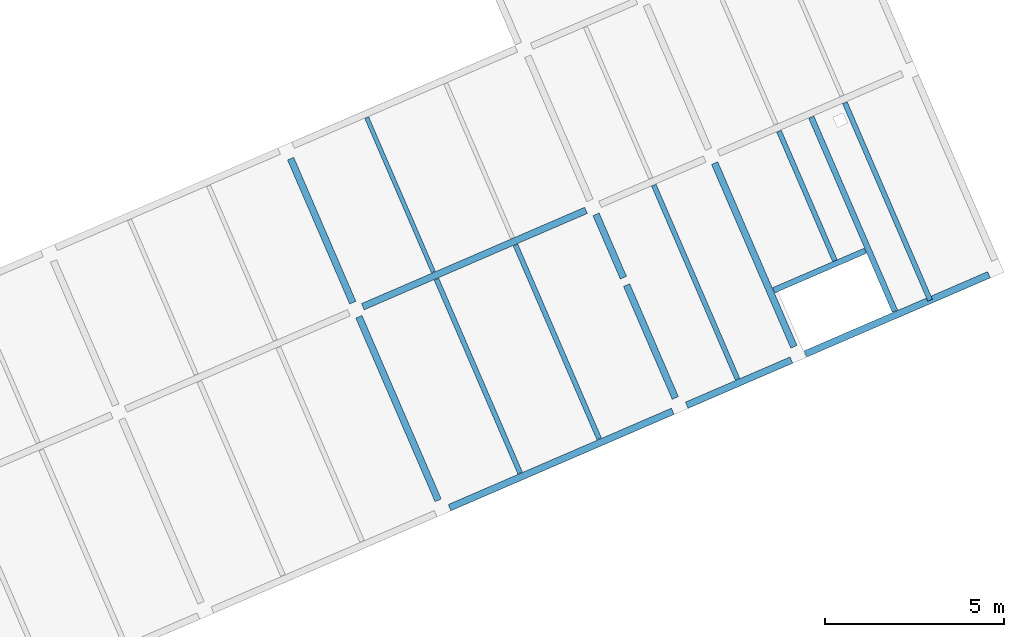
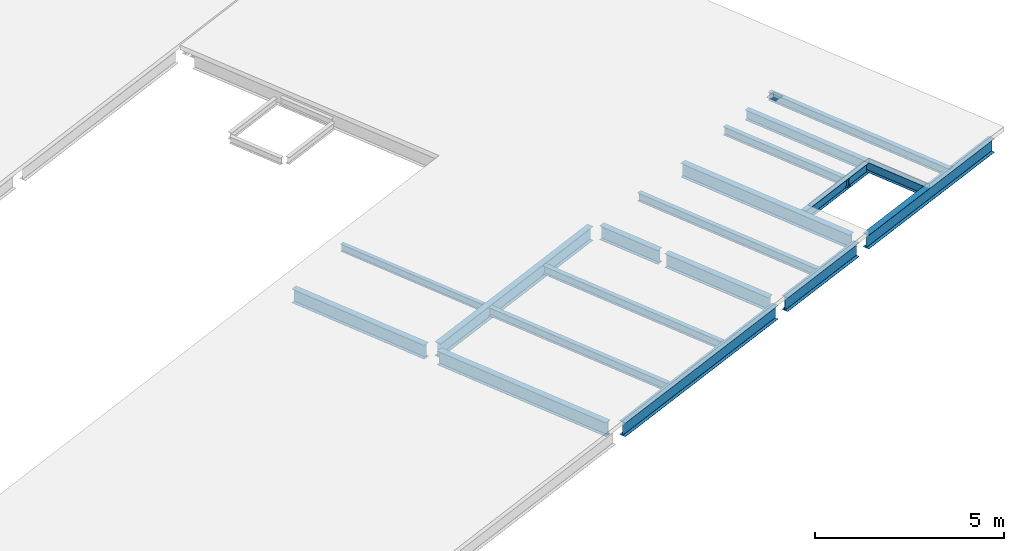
# One storey, part 5 of 15: 17 beams.
"""IFC4 building model written with IfcOpenShell, lengths in metres."""

from ifc_helpers import new_model, entity, si_unit, converted_unit, derived_unit, direction, frame, origin, place, context, subcontext, project, spatial, line, arc, indexed_curve, outline, extrude, source, transform, mapped, material, type_object, type_shapes, element, save


model = new_model("IFC4")

# Units and contexts
model_context = context("Model", 3, precision=1e-05, world=origin(), true_north=direction((6.12323399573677e-17, 1.0)))
body_context = subcontext(model_context, "Body", "Model", "MODEL_VIEW")
ifc_project = project(units=[si_unit("LENGTHUNIT", "METRE"), si_unit("AREAUNIT", "SQUARE_METRE"), si_unit("VOLUMEUNIT", "CUBIC_METRE"), converted_unit("PLANEANGLEUNIT", "DEGREE", entity("IfcPlaneAngleMeasure", 0.0174532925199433), si_unit("PLANEANGLEUNIT", "RADIAN"), dimensions=[0, 0, 0, 0, 0, 0, 0]), si_unit("MASSUNIT", "GRAM", prefix="KILO"), derived_unit("MOMENTOFINERTIAUNIT", [(si_unit("LENGTHUNIT", "METRE"), 4)]), derived_unit("LINEARFORCEUNIT", [(si_unit("MASSUNIT", "GRAM", prefix="KILO"), 1), (si_unit("TIMEUNIT", "SECOND"), -2)]), derived_unit("WARPINGCONSTANTUNIT", [(si_unit("LENGTHUNIT", "METRE"), 6)]), derived_unit("THERMALTRANSMITTANCEUNIT", [(si_unit("MASSUNIT", "GRAM", prefix="KILO"), 1), (si_unit("THERMODYNAMICTEMPERATUREUNIT", "KELVIN"), -1), (si_unit("TIMEUNIT", "SECOND"), -3)]), derived_unit("USERDEFINED", [(si_unit("MASSUNIT", "GRAM", prefix="KILO"), 1), (si_unit("TIMEUNIT", "SECOND"), -2), (si_unit("THERMODYNAMICTEMPERATUREUNIT", "KELVIN"), -1)]), derived_unit("THERMALRESISTANCEUNIT", [(si_unit("MASSUNIT", "GRAM", prefix="KILO"), -1), (si_unit("TIMEUNIT", "SECOND"), 3), (si_unit("THERMODYNAMICTEMPERATUREUNIT", "KELVIN"), 1)])], contexts=[model_context])

# Site, building, storey
site_placement = place(None, origin())
site = spatial("IfcSite", under=ifc_project, at=site_placement, Name="Default", CompositionType="ELEMENT")
building_placement = place(site_placement, frame((12.6613425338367, -82.5732315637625, 317.15), z_axis=(0.0, 0.0, 1.0), x_axis=(-0.396377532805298, 0.918087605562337, 0.0)))
building = spatial("IfcBuilding", under=site, at=building_placement, Name="CESFAM Coyhaique", CompositionType="ELEMENT")
storey_placement = place(building_placement, frame((0.0, 0.0, 8.45000000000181)))
storey = spatial("IfcBuildingStorey", under=building, at=storey_placement, Name="Nivel 3", CompositionType="ELEMENT", Elevation=8.45000000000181)

# Beams
ifc_material = material(Name="Steel, 45-345", Category="Metal")
beam_type_1 = type_object("IfcBeamType", Name="M_W Shapes:W450X190mm", PredefinedType="BEAM", material=ifc_material)
shared_shape_1 = source(origin(), body_context, "Body", "SweptSolid", [
    extrude(outline(indexed_curve([(-0.224999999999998, -0.0949999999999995), (-0.215349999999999, -0.0949999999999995), (-0.215349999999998, -0.0105699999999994), (-0.213109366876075, -0.00516063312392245), (-0.207699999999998, -0.00291999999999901), (0.207700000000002, -0.00291999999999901), (0.213109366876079, -0.00516063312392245), (0.215350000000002, -0.0105699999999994), (0.215350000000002, -0.0949999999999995), (0.225000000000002, -0.0949999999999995), (0.225000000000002, 0.0950000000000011), (0.215350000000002, 0.0950000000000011), (0.215350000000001, 0.0105700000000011), (0.213109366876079, 0.00516063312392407), (0.207700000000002, 0.00292000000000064), (-0.207699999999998, 0.00292000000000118), (-0.213109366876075, 0.00516063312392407), (-0.215349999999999, 0.0105700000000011), (-0.215349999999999, 0.0950000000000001), (-0.224999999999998, 0.0950000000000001)], segments=[line(1, 2, 3), arc(3, 4, 5), line(5, 6), arc(6, 7, 8), line(8, 9, 10, 11, 12, 13), arc(13, 14, 15), line(15, 16), arc(16, 17, 18), line(18, 19, 20, 1)], self_intersect=False)), frame((4.38155341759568, -4.39714959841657, 8.07500000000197), z_axis=(1.0, 0.0, 0.0), x_axis=(0.0, 0.0, -1.0)), (0.0, 0.0, 1.0), 5.5746),
])
type_shapes(beam_type_1, [shared_shape_1])
beam_1_placement = place(storey_placement, frame((0.0, 0.0, -8.45000000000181)))
element("IfcBeam", 1, at=beam_1_placement, inside=storey, type_object=beam_type_1, Name="M_W Shapes:W450X190mm", ObjectType="M_W Shapes:W450X190mm", PredefinedType="BEAM", context=body_context, shape_type="MappedRepresentation", body=[
    mapped(shared_shape_1, transform((0.0, 0.0, 0.0), scale=1.0)),
])
beam_type_2 = type_object("IfcBeamType", Name="M_W Shapes:W450X190mm", PredefinedType="BEAM", material=ifc_material)
shared_shape_2 = source(origin(), body_context, "Body", "SweptSolid", [
    extrude(outline(indexed_curve([(-0.224999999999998, -0.0950000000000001), (-0.215349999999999, -0.0949999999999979), (-0.215349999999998, -0.0105699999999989), (-0.213109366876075, -0.00516063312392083), (-0.207699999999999, -0.00291999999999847), (0.207700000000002, -0.00291999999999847), (0.213109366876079, -0.00516063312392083), (0.215350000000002, -0.0105699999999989), (0.215350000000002, -0.0950000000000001), (0.225000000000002, -0.0950000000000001), (0.225000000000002, 0.0950000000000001), (0.215350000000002, 0.0950000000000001), (0.215350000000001, 0.0105700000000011), (0.213109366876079, 0.00516063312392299), (0.207700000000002, 0.00292000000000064), (-0.207699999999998, 0.00292000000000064), (-0.213109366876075, 0.00516063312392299), (-0.215349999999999, 0.0105700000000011), (-0.215349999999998, 0.0950000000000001), (-0.224999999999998, 0.0950000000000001)], segments=[line(1, 2, 3), arc(3, 4, 5), line(5, 6), arc(6, 7, 8), line(8, 9, 10, 11, 12, 13), arc(13, 14, 15), line(15, 16), arc(16, 17, 18), line(18, 19, 20, 1)], self_intersect=False)), frame((4.38155341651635, -11.5971495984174, 8.07500000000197), z_axis=(1.0, 0.0, 0.0), x_axis=(0.0, 0.0, -1.0)), (0.0, 0.0, 1.0), 3.4246),
])
type_shapes(beam_type_2, [shared_shape_2])
beam_2_placement = place(storey_placement, frame((0.0, 0.0, -8.45000000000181)))
element("IfcBeam", 2, at=beam_2_placement, inside=storey, type_object=beam_type_2, Name="M_W Shapes:W450X190mm", ObjectType="M_W Shapes:W450X190mm", PredefinedType="BEAM", context=body_context, shape_type="MappedRepresentation", body=[
    mapped(shared_shape_2, transform((0.0, 0.0, 0.0), scale=1.0)),
])
beam_type_3 = type_object("IfcBeamType", Name="M_W Shapes:W450X190mm", PredefinedType="BEAM", material=ifc_material)
shared_shape_3 = source(origin(), body_context, "Body", "SweptSolid", [
    extrude(outline(indexed_curve([(-0.224999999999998, -0.0950000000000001), (-0.215349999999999, -0.0950000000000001), (-0.215349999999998, -0.0105699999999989), (-0.213109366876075, -0.00516063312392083), (-0.207699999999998, -0.00291999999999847), (0.207700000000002, -0.00291999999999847), (0.213109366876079, -0.00516063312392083), (0.215350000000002, -0.0105699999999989), (0.215350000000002, -0.0950000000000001), (0.225000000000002, -0.0950000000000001), (0.225000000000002, 0.0950000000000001), (0.215350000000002, 0.0950000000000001), (0.215350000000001, 0.0105700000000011), (0.213109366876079, 0.00516063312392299), (0.207700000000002, 0.00292000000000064), (-0.207699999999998, 0.00292000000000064), (-0.213109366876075, 0.00516063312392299), (-0.215349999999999, 0.0105700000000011), (-0.215349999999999, 0.0950000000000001), (-0.224999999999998, 0.0950000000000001)], segments=[line(1, 2, 3), arc(3, 4, 5), line(5, 6), arc(6, 7, 8), line(8, 9, 10, 11, 12, 13), arc(13, 14, 15), line(15, 16), arc(16, 17, 18), line(18, 19, 20, 1)], self_intersect=False)), frame((4.38155341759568, -15.1971495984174, 8.07500000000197), z_axis=(1.0, 0.0, 0.0), x_axis=(0.0, 0.0, -1.0)), (0.0, 0.0, 1.0), 5.5746),
])
type_shapes(beam_type_3, [shared_shape_3])
beam_3_placement = place(storey_placement, frame((0.0, 0.0, -8.45000000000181)))
element("IfcBeam", 3, at=beam_3_placement, inside=storey, type_object=beam_type_3, Name="M_W Shapes:W450X190mm", ObjectType="M_W Shapes:W450X190mm", PredefinedType="BEAM", context=body_context, shape_type="MappedRepresentation", body=[
    mapped(shared_shape_3, transform((0.0, 0.0, 0.0), scale=1.0)),
])
beam_type_4 = type_object("IfcBeamType", Name="M_W Shapes:W450X190mm", PredefinedType="BEAM", material=ifc_material)
shared_shape_4 = source(origin(), body_context, "Body", "SweptSolid", [
    extrude(outline(indexed_curve([(-0.224999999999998, -0.0950000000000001), (-0.215349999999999, -0.0950000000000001), (-0.215349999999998, -0.01057), (-0.213109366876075, -0.00516063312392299), (-0.207699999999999, -0.00291999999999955), (0.207700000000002, -0.00291999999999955), (0.213109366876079, -0.00516063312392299), (0.215350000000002, -0.01057), (0.215350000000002, -0.0950000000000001), (0.225000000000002, -0.0950000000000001), (0.225000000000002, 0.0950000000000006), (0.215350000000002, 0.0950000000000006), (0.215350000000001, 0.0105700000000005), (0.213109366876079, 0.00516063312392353), (0.207700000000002, 0.00292000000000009), (-0.207699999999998, 0.00292000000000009), (-0.213109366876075, 0.00516063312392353), (-0.215349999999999, 0.0105700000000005), (-0.215349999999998, 0.0949999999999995), (-0.224999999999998, 0.0950000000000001)], segments=[line(1, 2, 3), arc(3, 4, 5), line(5, 6), arc(6, 7, 8), line(8, 9, 10, 11, 12, 13), arc(13, 14, 15), line(15, 16), arc(16, 17, 18), line(18, 19, 20, 1)], self_intersect=False)), frame((10.3815534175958, -4.39714959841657, 8.07500000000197), z_axis=(1.0, 0.0, 0.0), x_axis=(0.0, 0.0, -1.0)), (0.0, 0.0, 1.0), 4.3746),
])
type_shapes(beam_type_4, [shared_shape_4])
beam_4_placement = place(storey_placement, frame((0.0, 0.0, -8.45000000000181)))
element("IfcBeam", 4, at=beam_4_placement, inside=storey, type_object=beam_type_4, Name="M_W Shapes:W450X190mm", ObjectType="M_W Shapes:W450X190mm", PredefinedType="BEAM", context=body_context, shape_type="MappedRepresentation", body=[
    mapped(shared_shape_4, transform((0.0, 0.0, 0.0), scale=1.0)),
])
beam_type_5 = type_object("IfcBeamType", Name="M_W Shapes:W450X190mm", PredefinedType="BEAM", material=ifc_material)
shared_shape_5 = source(origin(), body_context, "Body", "SweptSolid", [
    extrude(outline(indexed_curve([(-0.0950000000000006, -0.225000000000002), (0.0950000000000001, -0.225000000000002), (0.0950000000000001, -0.215350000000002), (0.01057, -0.215350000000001), (0.00516063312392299, -0.213109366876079), (0.00291999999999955, -0.207700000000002), (0.00291999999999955, 0.207699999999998), (0.00516063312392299, 0.213109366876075), (0.01057, 0.215349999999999), (0.094999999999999, 0.215349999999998), (0.0949999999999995, 0.224999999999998), (-0.0950000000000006, 0.224999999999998), (-0.0950000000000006, 0.215349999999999), (-0.0105700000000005, 0.215349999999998), (-0.00516063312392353, 0.213109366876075), (-0.00292000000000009, 0.207699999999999), (-0.00292000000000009, -0.207700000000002), (-0.00516063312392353, -0.213109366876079), (-0.0105700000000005, -0.215350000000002), (-0.0950000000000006, -0.215350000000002)], segments=[line(1, 2, 3, 4), arc(4, 5, 6), line(6, 7), arc(7, 8, 9), line(9, 10, 11, 12, 13, 14), arc(14, 15, 16), line(16, 17), arc(17, 18, 19), line(19, 20, 1)], self_intersect=False)), frame((4.06885341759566, -11.384449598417, 8.07500000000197), z_axis=(0.0, 1.0, 0.0), x_axis=(-1.0, 0.0, 0.0)), (0.0, 0.0, 1.0), 6.7746),
])
type_shapes(beam_type_5, [shared_shape_5])
beam_5_placement = place(storey_placement, frame((0.0, 0.0, -8.45000000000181)))
element("IfcBeam", 5, at=beam_5_placement, inside=storey, type_object=beam_type_5, Name="M_W Shapes:W450X190mm", ObjectType="M_W Shapes:W450X190mm", PredefinedType="BEAM", context=body_context, shape_type="MappedRepresentation", body=[
    mapped(shared_shape_5, transform((0.0, 0.0, 0.0), scale=1.0)),
])
beam_type_6 = type_object("IfcBeamType", Name="M_W Shapes:W450X190mm", PredefinedType="BEAM", material=ifc_material)
shared_shape_6 = source(origin(), body_context, "Body", "SweptSolid", [
    extrude(outline(indexed_curve([(-0.0950000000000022, -0.225000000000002), (0.0949999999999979, -0.225000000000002), (0.0949999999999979, -0.215350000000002), (0.0105699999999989, -0.215350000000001), (0.00516063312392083, -0.213109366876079), (0.00291999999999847, -0.207700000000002), (0.00291999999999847, 0.207699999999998), (0.00516063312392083, 0.213109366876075), (0.0105699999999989, 0.215349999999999), (0.0949999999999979, 0.215349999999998), (0.0949999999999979, 0.224999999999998), (-0.0950000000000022, 0.224999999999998), (-0.0950000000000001, 0.215349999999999), (-0.0105700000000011, 0.215349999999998), (-0.00516063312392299, 0.213109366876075), (-0.00292000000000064, 0.207699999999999), (-0.00292000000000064, -0.207700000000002), (-0.00516063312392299, -0.213109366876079), (-0.0105700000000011, -0.215350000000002), (-0.0950000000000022, -0.215350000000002)], segments=[line(1, 2, 3, 4), arc(4, 5, 6), line(6, 7), arc(7, 8, 9), line(9, 10, 11, 12, 13, 14), arc(14, 15, 16), line(16, 17), arc(17, 18, 19), line(19, 20, 1)], self_intersect=False)), frame((10.1688534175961, -11.384449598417, 8.07500000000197), z_axis=(0.0, 1.0, 0.0), x_axis=(-1.0, 0.0, 0.0)), (0.0, 0.0, 1.0), 6.7746),
])
type_shapes(beam_type_6, [shared_shape_6])
beam_6_placement = place(storey_placement, frame((0.0, 0.0, -8.45000000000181)))
element("IfcBeam", 6, at=beam_6_placement, inside=storey, type_object=beam_type_6, Name="M_W Shapes:W450X190mm", ObjectType="M_W Shapes:W450X190mm", PredefinedType="BEAM", context=body_context, shape_type="MappedRepresentation", body=[
    mapped(shared_shape_6, transform((0.0, 0.0, 0.0), scale=1.0)),
])
beam_type_7 = type_object("IfcBeamType", Name="M_W Shapes:W450X190mm", PredefinedType="BEAM", material=ifc_material)
shared_shape_7 = source(origin(), body_context, "Body", "SweptSolid", [
    extrude(outline(indexed_curve([(-0.0950000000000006, -0.225000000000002), (0.0950000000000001, -0.225000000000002), (0.0950000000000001, -0.215350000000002), (0.01057, -0.215350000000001), (0.00516063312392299, -0.213109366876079), (0.00291999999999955, -0.207700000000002), (0.00291999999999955, 0.207699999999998), (0.00516063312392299, 0.213109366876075), (0.01057, 0.215349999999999), (0.0949999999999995, 0.215349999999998), (0.0949999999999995, 0.224999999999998), (-0.0950000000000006, 0.224999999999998), (-0.0950000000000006, 0.215349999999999), (-0.0105700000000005, 0.215349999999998), (-0.00516063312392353, 0.213109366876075), (-0.00292000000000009, 0.207699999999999), (-0.00292000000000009, -0.207700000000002), (-0.00516063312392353, -0.213109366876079), (-0.0105700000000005, -0.215350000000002), (-0.0950000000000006, -0.215350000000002)], segments=[line(1, 2, 3, 4), arc(4, 5, 6), line(6, 7), arc(7, 8, 9), line(9, 10, 11, 12, 13, 14), arc(14, 15, 16), line(16, 17), arc(17, 18, 19), line(19, 20, 1)], self_intersect=False)), frame((4.06885341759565, -14.9844495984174, 8.07500000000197), z_axis=(0.0, 1.0, 0.0), x_axis=(-1.0, 0.0, 0.0)), (0.0, 0.0, 1.0), 3.1746),
])
type_shapes(beam_type_7, [shared_shape_7])
beam_7_placement = place(storey_placement, frame((0.0, 0.0, -8.45000000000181)))
element("IfcBeam", 7, at=beam_7_placement, inside=storey, type_object=beam_type_7, Name="M_W Shapes:W450X190mm", ObjectType="M_W Shapes:W450X190mm", PredefinedType="BEAM", context=body_context, shape_type="MappedRepresentation", body=[
    mapped(shared_shape_7, transform((0.0, 0.0, 0.0), scale=1.0)),
])
beam_type_8 = type_object("IfcBeamType", Name="M_W Shapes:W450X190mm", PredefinedType="BEAM", material=ifc_material)
shared_shape_8 = source(origin(), body_context, "Body", "SweptSolid", [
    extrude(outline(indexed_curve([(-0.0950000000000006, -0.225000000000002), (0.0950000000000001, -0.225000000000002), (0.0950000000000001, -0.215350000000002), (0.01057, -0.215350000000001), (0.00516063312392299, -0.213109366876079), (0.00291999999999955, -0.207700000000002), (0.00292000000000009, 0.207699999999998), (0.00516063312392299, 0.213109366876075), (0.01057, 0.215349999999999), (0.0949999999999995, 0.215349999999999), (0.0949999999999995, 0.224999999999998), (-0.0950000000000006, 0.224999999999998), (-0.0950000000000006, 0.215349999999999), (-0.0105700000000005, 0.215349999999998), (-0.00516063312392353, 0.213109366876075), (-0.00292000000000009, 0.207699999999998), (-0.00292000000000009, -0.207700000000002), (-0.00516063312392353, -0.213109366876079), (-0.0105700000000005, -0.215350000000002), (-0.0950000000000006, -0.215350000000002)], segments=[line(1, 2, 3, 4), arc(4, 5, 6), line(6, 7), arc(7, 8, 9), line(9, 10, 11, 12, 13, 14), arc(14, 15, 16), line(16, 17), arc(17, 18, 19), line(19, 20, 1)], self_intersect=False)), frame((4.06885341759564, -20.9844495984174, 8.07500000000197), z_axis=(0.0, 1.0, 0.0), x_axis=(-1.0, 0.0, 0.0)), (0.0, 0.0, 1.0), 5.5746),
])
type_shapes(beam_type_8, [shared_shape_8])
beam_8_placement = place(storey_placement, frame((0.0, 0.0, -8.45000000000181)))
element("IfcBeam", 8, at=beam_8_placement, inside=storey, type_object=beam_type_8, Name="M_W Shapes:W450X190mm", ObjectType="M_W Shapes:W450X190mm", PredefinedType="BEAM", context=body_context, shape_type="MappedRepresentation", body=[
    mapped(shared_shape_8, transform((0.0, 0.0, 0.0), scale=1.0)),
])
beam_type_9 = type_object("IfcBeamType", Name="M_W Shapes:W450X190mm", PredefinedType="BEAM", material=ifc_material)
shared_shape_9 = source(origin(), body_context, "Body", "SweptSolid", [
    extrude(outline(indexed_curve([(-0.224999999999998, -0.0949999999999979), (-0.215349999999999, -0.0949999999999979), (-0.215349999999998, -0.0105699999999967), (-0.213109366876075, -0.00516063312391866), (-0.207699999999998, -0.0029199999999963), (0.207700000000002, -0.0029199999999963), (0.213109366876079, -0.00516063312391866), (0.215350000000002, -0.0105699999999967), (0.215350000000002, -0.0949999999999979), (0.225000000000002, -0.0949999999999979), (0.225000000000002, 0.0950000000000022), (0.215350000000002, 0.0950000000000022), (0.215350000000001, 0.0105700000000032), (0.213109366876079, 0.00516063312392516), (0.207700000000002, 0.0029200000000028), (-0.207699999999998, 0.0029200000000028), (-0.213109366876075, 0.00516063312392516), (-0.215349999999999, 0.0105700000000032), (-0.215349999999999, 0.0950000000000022), (-0.224999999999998, 0.0950000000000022)], segments=[line(1, 2, 3), arc(3, 4, 5), line(5, 6), arc(6, 7, 8), line(8, 9, 10, 11, 12, 13), arc(13, 14, 15), line(15, 16), arc(16, 17, 18), line(18, 19, 20, 1)], self_intersect=False)), frame((8.03155341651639, -11.5971495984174, 8.07500000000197), z_axis=(1.0, 0.0, 0.0), x_axis=(0.0, 0.0, -1.0)), (0.0, 0.0, 1.0), 1.9246),
])
type_shapes(beam_type_9, [shared_shape_9])
beam_9_placement = place(storey_placement, frame((0.0, 0.0, -8.45000000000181)))
element("IfcBeam", 9, at=beam_9_placement, inside=storey, type_object=beam_type_9, Name="M_W Shapes:W450X190mm", ObjectType="M_W Shapes:W450X190mm", PredefinedType="BEAM", context=body_context, shape_type="MappedRepresentation", body=[
    mapped(shared_shape_9, transform((0.0, 0.0, 0.0), scale=1.0)),
])
beam_type_10 = type_object("IfcBeamType", Name="M_W Shapes:W270X140mm", PredefinedType="BEAM", material=ifc_material)
shared_shape_10 = source(origin(), body_context, "Body", "SweptSolid", [
    extrude(outline(indexed_curve([(-0.135, -0.0700000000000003), (-0.125350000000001, -0.0700000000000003), (-0.125350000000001, -0.01057), (-0.123109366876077, -0.00516063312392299), (-0.1177, -0.00292000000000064), (0.117699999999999, -0.00291999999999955), (0.123109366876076, -0.00516063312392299), (0.12535, -0.01057), (0.12535, -0.0700000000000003), (0.135, -0.0700000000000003), (0.135, 0.0700000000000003), (0.12535, 0.0700000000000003), (0.12535, 0.01057), (0.123109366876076, 0.00516063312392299), (0.117699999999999, 0.00291999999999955), (-0.1177, 0.00291999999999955), (-0.123109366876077, 0.00516063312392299), (-0.125350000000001, 0.01057), (-0.125350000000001, 0.0699999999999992), (-0.135, 0.0699999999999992)], segments=[line(1, 2, 3), arc(3, 4, 5), line(5, 6), arc(6, 7, 8), line(8, 9, 10, 11, 12, 13), arc(13, 14, 15), line(15, 16), arc(16, 17, 18), line(18, 19, 20, 1)], self_intersect=False)), frame((4.17655341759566, -6.79714959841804, 8.16500000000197), z_axis=(1.0, 0.0, 0.0), x_axis=(0.0, 0.0, -1.0)), (0.0, 0.0, 1.0), 5.8846),
])
type_shapes(beam_type_10, [shared_shape_10])
beam_10_placement = place(storey_placement, frame((0.0, 0.0, -8.45000000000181)))
element("IfcBeam", 10, at=beam_10_placement, inside=storey, type_object=beam_type_10, Name="M_W Shapes:W270X140mm", ObjectType="M_W Shapes:W270X140mm", PredefinedType="BEAM", context=body_context, shape_type="MappedRepresentation", body=[
    mapped(shared_shape_10, transform((0.0, 0.0, 0.0), scale=1.0)),
])
beam_type_11 = type_object("IfcBeamType", Name="M_W Shapes:W240X120mm", PredefinedType="BEAM", material=ifc_material)
shared_shape_11 = source(origin(), body_context, "Body", "SweptSolid", [
    extrude(outline(indexed_curve([(-0.12, -0.0599999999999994), (-0.110350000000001, -0.0599999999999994), (-0.110350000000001, -0.0105699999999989), (-0.108109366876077, -0.00516063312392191), (-0.1027, -0.00291999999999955), (0.102699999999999, -0.00291999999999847), (0.108109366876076, -0.00516063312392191), (0.110349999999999, -0.0105699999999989), (0.11035, -0.0599999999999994), (0.12, -0.0599999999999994), (0.12, 0.0600000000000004), (0.110349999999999, 0.0600000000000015), (0.11035, 0.0105700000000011), (0.108109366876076, 0.00516063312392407), (0.102699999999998, 0.00292000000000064), (-0.1027, 0.00292000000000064), (-0.108109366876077, 0.00516063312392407), (-0.110350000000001, 0.01057), (-0.11035, 0.0600000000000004), (-0.12, 0.0599999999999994)], segments=[line(1, 2, 3), arc(3, 4, 5), line(5, 6), arc(6, 7, 8), line(8, 9, 10, 11, 12, 13), arc(13, 14, 15), line(15, 16), arc(16, 17, 18), line(18, 19, 20, 1)], self_intersect=False)), frame((10.2765534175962, -6.79714959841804, 8.18000000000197), z_axis=(1.0, 0.0, 0.0), x_axis=(0.0, 0.0, -1.0)), (0.0, 0.0, 1.0), 4.6846),
])
type_shapes(beam_type_11, [shared_shape_11])
beam_11_placement = place(storey_placement, frame((0.0, 0.0, -8.45000000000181)))
element("IfcBeam", 11, at=beam_11_placement, inside=storey, type_object=beam_type_11, Name="M_W Shapes:W240X120mm", ObjectType="M_W Shapes:W240X120mm", PredefinedType="BEAM", context=body_context, shape_type="MappedRepresentation", body=[
    mapped(shared_shape_11, transform((0.0, 0.0, 0.0), scale=1.0)),
])
beam_type_12 = type_object("IfcBeamType", Name="M_W Shapes:W270X140mm", PredefinedType="BEAM", material=ifc_material)
shared_shape_12 = source(origin(), body_context, "Body", "SweptSolid", [
    extrude(outline(indexed_curve([(-0.135, -0.0700000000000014), (-0.125350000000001, -0.0700000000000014), (-0.125350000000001, -0.0105700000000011), (-0.123109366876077, -0.00516063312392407), (-0.1177, -0.00292000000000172), (0.117699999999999, -0.00292000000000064), (0.123109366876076, -0.00516063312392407), (0.12535, -0.0105700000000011), (0.12535, -0.0700000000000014), (0.135, -0.0700000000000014), (0.135, 0.0699999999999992), (0.12535, 0.0699999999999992), (0.12535, 0.0105699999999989), (0.123109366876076, 0.00516063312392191), (0.117699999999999, 0.00291999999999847), (-0.1177, 0.00291999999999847), (-0.123109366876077, 0.00516063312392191), (-0.125350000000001, 0.0105699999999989), (-0.125350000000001, 0.0699999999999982), (-0.135, 0.0699999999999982)], segments=[line(1, 2, 3), arc(3, 4, 5), line(5, 6), arc(6, 7, 8), line(8, 9, 10, 11, 12, 13), arc(13, 14, 15), line(15, 16), arc(16, 17, 18), line(18, 19, 20, 1)], self_intersect=False)), frame((4.17655341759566, -9.19714959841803, 8.16500000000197), z_axis=(1.0, 0.0, 0.0), x_axis=(0.0, 0.0, -1.0)), (0.0, 0.0, 1.0), 5.8846),
])
type_shapes(beam_type_12, [shared_shape_12])
beam_12_placement = place(storey_placement, frame((0.0, 0.0, -8.45000000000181)))
element("IfcBeam", 12, at=beam_12_placement, inside=storey, type_object=beam_type_12, Name="M_W Shapes:W270X140mm", ObjectType="M_W Shapes:W270X140mm", PredefinedType="BEAM", context=body_context, shape_type="MappedRepresentation", body=[
    mapped(shared_shape_12, transform((0.0, 0.0, 0.0), scale=1.0)),
])
beam_type_13 = type_object("IfcBeamType", Name="M_W Shapes:W270X140mm", PredefinedType="BEAM", material=ifc_material)
shared_shape_13 = source(origin(), body_context, "Body", "SweptSolid", [
    extrude(outline(indexed_curve([(-0.135, -0.0699999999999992), (-0.125350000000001, -0.0699999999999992), (-0.12535, -0.0105699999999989), (-0.123109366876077, -0.00516063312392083), (-0.1177, -0.00291999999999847), (0.117699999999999, -0.00291999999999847), (0.123109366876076, -0.00516063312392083), (0.12535, -0.0105699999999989), (0.12535, -0.0699999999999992), (0.135, -0.0699999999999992), (0.135, 0.0700000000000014), (0.12535, 0.0700000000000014), (0.125349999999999, 0.0105700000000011), (0.123109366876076, 0.00516063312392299), (0.117699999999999, 0.00292000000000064), (-0.1177, 0.00292000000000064), (-0.123109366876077, 0.00516063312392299), (-0.125350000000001, 0.0105700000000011), (-0.125350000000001, 0.0700000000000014), (-0.135, 0.0700000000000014)], segments=[line(1, 2, 3), arc(3, 4, 5), line(5, 6), arc(6, 7, 8), line(8, 9, 10, 11, 12, 13), arc(13, 14, 15), line(15, 16), arc(16, 17, 18), line(18, 19, 20, 1)], self_intersect=False)), frame((4.17655341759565, -13.3971495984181, 8.16500000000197), z_axis=(1.0, 0.0, 0.0), x_axis=(0.0, 0.0, -1.0)), (0.0, 0.0, 1.0), 5.8846),
])
type_shapes(beam_type_13, [shared_shape_13])
beam_13_placement = place(storey_placement, frame((0.0, 0.0, -8.45000000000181)))
element("IfcBeam", 13, at=beam_13_placement, inside=storey, type_object=beam_type_13, Name="M_W Shapes:W270X140mm", ObjectType="M_W Shapes:W270X140mm", PredefinedType="BEAM", context=body_context, shape_type="MappedRepresentation", body=[
    mapped(shared_shape_13, transform((0.0, 0.0, 0.0), scale=1.0)),
])
beam_type_14 = type_object("IfcBeamType", Name="M_W Shapes:W270X140mm", PredefinedType="BEAM", material=ifc_material)
shared_shape_14 = source(origin(), body_context, "Body", "SweptSolid", [
    extrude(outline(indexed_curve([(-0.135000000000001, -0.0699999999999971), (-0.125350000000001, -0.0699999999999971), (-0.12535, -0.0105699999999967), (-0.123109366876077, -0.00516063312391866), (-0.117700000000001, -0.0029199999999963), (0.117699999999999, -0.0029199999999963), (0.123109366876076, -0.00516063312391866), (0.12535, -0.0105699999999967), (0.12535, -0.0699999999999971), (0.135, -0.0699999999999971), (0.135, 0.0700000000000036), (0.12535, 0.0700000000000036), (0.125349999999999, 0.0105700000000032), (0.123109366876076, 0.00516063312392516), (0.117699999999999, 0.0029200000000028), (-0.1177, 0.0029200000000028), (-0.123109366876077, 0.00516063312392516), (-0.125350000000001, 0.0105700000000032), (-0.125350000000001, 0.0700000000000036), (-0.135, 0.0700000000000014)], segments=[line(1, 2, 3), arc(3, 4, 5), line(5, 6), arc(6, 7, 8), line(8, 9, 10, 11, 12, 13), arc(13, 14, 15), line(15, 16), arc(16, 17, 18), line(18, 19, 20, 1)], self_intersect=False)), frame((5.96885341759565, -17.197149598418, 8.16500000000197), z_axis=(1.0, 0.0, 0.0), x_axis=(0.0, 0.0, -1.0)), (0.0, 0.0, 1.0), 4.0923),
])
type_shapes(beam_type_14, [shared_shape_14])
beam_14_placement = place(storey_placement, frame((0.0, 0.0, -8.45000000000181)))
element("IfcBeam", 14, at=beam_14_placement, inside=storey, type_object=beam_type_14, Name="M_W Shapes:W270X140mm", ObjectType="M_W Shapes:W270X140mm", PredefinedType="BEAM", context=body_context, shape_type="MappedRepresentation", body=[
    mapped(shared_shape_14, transform((0.0, 0.0, 0.0), scale=1.0)),
])
beam_type_15 = type_object("IfcBeamType", Name="M_W Shapes:W330X160mm", PredefinedType="BEAM", material=ifc_material)
shared_shape_15 = source(origin(), body_context, "Body", "SweptSolid", [
    extrude(outline(indexed_curve([(-0.0800000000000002, -0.165), (0.0800000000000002, -0.164999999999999), (0.0800000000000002, -0.155349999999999), (0.01057, -0.155349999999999), (0.00516063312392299, -0.153109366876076), (0.00291999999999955, -0.147699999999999), (0.00291999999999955, 0.147700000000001), (0.00516063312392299, 0.153109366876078), (0.0105699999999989, 0.15535), (0.0799999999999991, 0.15535), (0.0799999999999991, 0.165), (-0.0800000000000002, 0.165), (-0.0800000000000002, 0.15535), (-0.01057, 0.155350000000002), (-0.00516063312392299, 0.153109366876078), (-0.00292000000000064, 0.147700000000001), (-0.00291999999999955, -0.147699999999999), (-0.00516063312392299, -0.153109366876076), (-0.01057, -0.155349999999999), (-0.0800000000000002, -0.155349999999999)], segments=[line(1, 2, 3, 4), arc(4, 5, 6), line(6, 7), arc(7, 8, 9), line(9, 10, 11, 12, 13, 14), arc(14, 15, 16), line(16, 17), arc(17, 18, 19), line(19, 20, 1)], self_intersect=False)), frame((6.04885341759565, -18.0844495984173, 8.13500000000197), z_axis=(0.0, 1.0, 0.0), x_axis=(-1.0, 0.0, 0.0)), (0.0, 0.0, 1.0), 2.7796),
])
type_shapes(beam_type_15, [shared_shape_15])
beam_15_placement = place(storey_placement, frame((0.0, 0.0, -8.45000000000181)))
element("IfcBeam", 15, at=beam_15_placement, inside=storey, type_object=beam_type_15, Name="M_W Shapes:W330X160mm", ObjectType="M_W Shapes:W330X160mm", PredefinedType="BEAM", context=body_context, shape_type="MappedRepresentation", body=[
    mapped(shared_shape_15, transform((0.0, 0.0, 0.0), scale=1.0)),
])
beam_type_16 = type_object("IfcBeamType", Name="M_W Shapes:W330X160mm", PredefinedType="BEAM", material=ifc_material)
shared_shape_16 = source(origin(), body_context, "Body", "SweptSolid", [
    extrude(outline(indexed_curve([(-0.164999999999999, -0.0799999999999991), (-0.155349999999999, -0.0799999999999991), (-0.155349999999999, -0.0105699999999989), (-0.153109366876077, -0.00516063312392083), (-0.1477, -0.00291999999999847), (0.1477, -0.00291999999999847), (0.153109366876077, -0.00516063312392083), (0.15535, -0.0105699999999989), (0.15535, -0.0799999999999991), (0.165000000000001, -0.0799999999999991), (0.165000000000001, 0.0800000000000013), (0.15535, 0.0800000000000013), (0.155349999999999, 0.0105700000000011), (0.153109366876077, 0.00516063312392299), (0.1477, 0.00292000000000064), (-0.1477, 0.00292000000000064), (-0.153109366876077, 0.00516063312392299), (-0.155349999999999, 0.0105700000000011), (-0.155349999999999, 0.0800000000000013), (-0.164999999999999, 0.0800000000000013)], segments=[line(1, 2, 3), arc(3, 4, 5), line(5, 6), arc(6, 7, 8), line(8, 9, 10, 11, 12, 13), arc(13, 14, 15), line(15, 16), arc(16, 17, 18), line(18, 19, 20, 1)], self_intersect=False)), frame((4.17655341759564, -18.1771495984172, 8.13500000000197), z_axis=(1.0, 0.0, 0.0), x_axis=(0.0, 0.0, -1.0)), (0.0, 0.0, 1.0), 5.8846),
])
type_shapes(beam_type_16, [shared_shape_16])
beam_16_placement = place(storey_placement, frame((0.0, 0.0, -8.45000000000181)))
element("IfcBeam", 16, at=beam_16_placement, inside=storey, type_object=beam_type_16, Name="M_W Shapes:W330X160mm", ObjectType="M_W Shapes:W330X160mm", PredefinedType="BEAM", context=body_context, shape_type="MappedRepresentation", body=[
    mapped(shared_shape_16, transform((0.0, 0.0, 0.0), scale=1.0)),
])
beam_type_17 = type_object("IfcBeamType", Name="M_W Shapes:W270X140mm", PredefinedType="BEAM", material=ifc_material)
shared_shape_17 = source(origin(), body_context, "Body", "SweptSolid", [
    extrude(outline(indexed_curve([(-0.135000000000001, -0.0699999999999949), (-0.125350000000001, -0.0699999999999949), (-0.12535, -0.0105699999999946), (-0.123109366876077, -0.00516063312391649), (-0.117700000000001, -0.00291999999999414), (0.117699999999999, -0.00291999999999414), (0.123109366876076, -0.00516063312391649), (0.12535, -0.0105699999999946), (0.12535, -0.0699999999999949), (0.135, -0.0699999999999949), (0.135, 0.0700000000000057), (0.12535, 0.0700000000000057), (0.125349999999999, 0.0105700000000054), (0.123109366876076, 0.00516063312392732), (0.117699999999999, 0.00292000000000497), (-0.1177, 0.00292000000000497), (-0.123109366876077, 0.00516063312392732), (-0.125350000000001, 0.0105700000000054), (-0.125350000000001, 0.0700000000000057), (-0.135, 0.0700000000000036)], segments=[line(1, 2, 3), arc(3, 4, 5), line(5, 6), arc(6, 7, 8), line(8, 9, 10, 11, 12, 13), arc(13, 14, 15), line(15, 16), arc(16, 17, 18), line(18, 19, 20, 1)], self_intersect=False)), frame((4.06885341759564, -19.197149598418, 8.16500000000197), z_axis=(1.0, 0.0, 0.0), x_axis=(0.0, 0.0, -1.0)), (0.0, 0.0, 1.0), 5.9923),
])
type_shapes(beam_type_17, [shared_shape_17])
beam_17_placement = place(storey_placement, frame((0.0, 0.0, -8.45000000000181)))
element("IfcBeam", 17, at=beam_17_placement, inside=storey, type_object=beam_type_17, Name="M_W Shapes:W270X140mm", ObjectType="M_W Shapes:W270X140mm", PredefinedType="BEAM", context=body_context, shape_type="MappedRepresentation", body=[
    mapped(shared_shape_17, transform((0.0, 0.0, 0.0), scale=1.0)),
])

save(model, "model.ifc")
